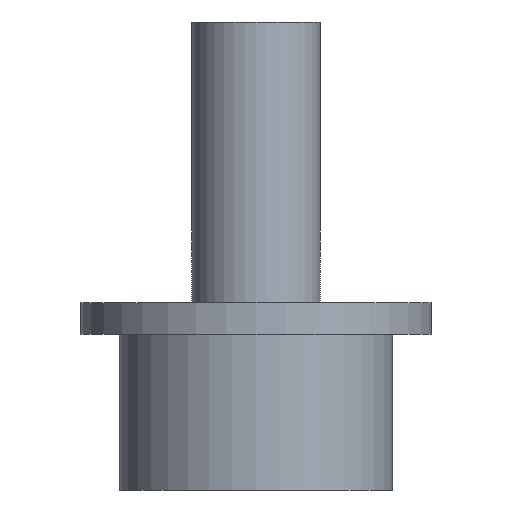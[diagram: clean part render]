
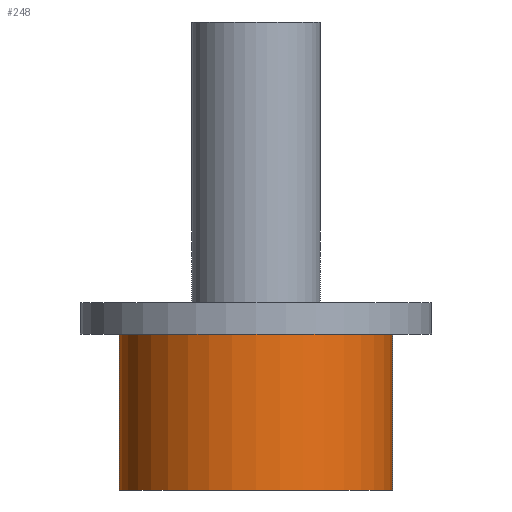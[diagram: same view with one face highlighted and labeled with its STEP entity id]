
A CAD part, left-side view. The second image highlights one B-rep face of the part: STEP entity #248.
In plain terms, the highlighted cylindrical face has radius 3.5 mm (diameter 7 mm), a full revolution.
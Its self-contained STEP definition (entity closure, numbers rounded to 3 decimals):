
#248 = ADVANCED_FACE('',(#249),#263,.T.);
#249 = FACE_BOUND('',#250,.F.);
#250 = EDGE_LOOP('',(#251,#281,#308,#309));
#251 = ORIENTED_EDGE('',*,*,#252,.T.);
#252 = EDGE_CURVE('',#253,#255,#257,.T.);
#253 = VERTEX_POINT('',#254);
#254 = CARTESIAN_POINT('',(-9.003,-70.906,190.2));
#255 = VERTEX_POINT('',#256);
#256 = CARTESIAN_POINT('',(-9.003,-70.906,194.2));
#257 = SEAM_CURVE('',#258,(#262,#274),.PCURVE_S1.);
#258 = LINE('',#259,#260);
#259 = CARTESIAN_POINT('',(-9.003,-70.906,190.2));
#260 = VECTOR('',#261,1.);
#261 = DIRECTION('',(0.,0.,1.));
#262 = PCURVE('',#263,#268);
#263 = CYLINDRICAL_SURFACE('',#264,3.5);
#264 = AXIS2_PLACEMENT_3D('',#265,#266,#267);
#265 = CARTESIAN_POINT('',(-12.503,-70.906,190.2));
#266 = DIRECTION('',(-0.,-0.,-1.));
#267 = DIRECTION('',(1.,0.,0.));
#268 = DEFINITIONAL_REPRESENTATION('',(#269),#273);
#269 = LINE('',#270,#271);
#270 = CARTESIAN_POINT('',(-0.,0.));
#271 = VECTOR('',#272,1.);
#272 = DIRECTION('',(-0.,-1.));
#273 = ( GEOMETRIC_REPRESENTATION_CONTEXT(2) 
PARAMETRIC_REPRESENTATION_CONTEXT() REPRESENTATION_CONTEXT('2D SPACE',''
  ) );
#274 = PCURVE('',#263,#275);
#275 = DEFINITIONAL_REPRESENTATION('',(#276),#280);
#276 = LINE('',#277,#278);
#277 = CARTESIAN_POINT('',(-6.283,0.));
#278 = VECTOR('',#279,1.);
#279 = DIRECTION('',(-0.,-1.));
#280 = ( GEOMETRIC_REPRESENTATION_CONTEXT(2) 
PARAMETRIC_REPRESENTATION_CONTEXT() REPRESENTATION_CONTEXT('2D SPACE',''
  ) );
#281 = ORIENTED_EDGE('',*,*,#282,.T.);
#282 = EDGE_CURVE('',#255,#255,#283,.T.);
#283 = SURFACE_CURVE('',#284,(#289,#296),.PCURVE_S1.);
#284 = CIRCLE('',#285,3.5);
#285 = AXIS2_PLACEMENT_3D('',#286,#287,#288);
#286 = CARTESIAN_POINT('',(-12.503,-70.906,194.2));
#287 = DIRECTION('',(0.,0.,1.));
#288 = DIRECTION('',(1.,0.,0.));
#289 = PCURVE('',#263,#290);
#290 = DEFINITIONAL_REPRESENTATION('',(#291),#295);
#291 = LINE('',#292,#293);
#292 = CARTESIAN_POINT('',(-0.,-4.));
#293 = VECTOR('',#294,1.);
#294 = DIRECTION('',(-1.,0.));
#295 = ( GEOMETRIC_REPRESENTATION_CONTEXT(2) 
PARAMETRIC_REPRESENTATION_CONTEXT() REPRESENTATION_CONTEXT('2D SPACE',''
  ) );
#296 = PCURVE('',#297,#302);
#297 = PLANE('',#298);
#298 = AXIS2_PLACEMENT_3D('',#299,#300,#301);
#299 = CARTESIAN_POINT('',(-12.503,-70.906,194.2));
#300 = DIRECTION('',(0.,0.,1.));
#301 = DIRECTION('',(1.,0.,-0.));
#302 = DEFINITIONAL_REPRESENTATION('',(#303),#307);
#303 = CIRCLE('',#304,3.5);
#304 = AXIS2_PLACEMENT_2D('',#305,#306);
#305 = CARTESIAN_POINT('',(0.,0.));
#306 = DIRECTION('',(1.,0.));
#307 = ( GEOMETRIC_REPRESENTATION_CONTEXT(2) 
PARAMETRIC_REPRESENTATION_CONTEXT() REPRESENTATION_CONTEXT('2D SPACE',''
  ) );
#308 = ORIENTED_EDGE('',*,*,#252,.F.);
#309 = ORIENTED_EDGE('',*,*,#310,.F.);
#310 = EDGE_CURVE('',#253,#253,#311,.T.);
#311 = SURFACE_CURVE('',#312,(#317,#324),.PCURVE_S1.);
#312 = CIRCLE('',#313,3.5);
#313 = AXIS2_PLACEMENT_3D('',#314,#315,#316);
#314 = CARTESIAN_POINT('',(-12.503,-70.906,190.2));
#315 = DIRECTION('',(0.,0.,1.));
#316 = DIRECTION('',(1.,0.,0.));
#317 = PCURVE('',#263,#318);
#318 = DEFINITIONAL_REPRESENTATION('',(#319),#323);
#319 = LINE('',#320,#321);
#320 = CARTESIAN_POINT('',(-0.,0.));
#321 = VECTOR('',#322,1.);
#322 = DIRECTION('',(-1.,0.));
#323 = ( GEOMETRIC_REPRESENTATION_CONTEXT(2) 
PARAMETRIC_REPRESENTATION_CONTEXT() REPRESENTATION_CONTEXT('2D SPACE',''
  ) );
#324 = PCURVE('',#325,#330);
#325 = PLANE('',#326);
#326 = AXIS2_PLACEMENT_3D('',#327,#328,#329);
#327 = CARTESIAN_POINT('',(-12.503,-70.906,190.2));
#328 = DIRECTION('',(0.,0.,1.));
#329 = DIRECTION('',(1.,0.,-0.));
#330 = DEFINITIONAL_REPRESENTATION('',(#331),#335);
#331 = CIRCLE('',#332,3.5);
#332 = AXIS2_PLACEMENT_2D('',#333,#334);
#333 = CARTESIAN_POINT('',(0.,0.));
#334 = DIRECTION('',(1.,0.));
#335 = ( GEOMETRIC_REPRESENTATION_CONTEXT(2) 
PARAMETRIC_REPRESENTATION_CONTEXT() REPRESENTATION_CONTEXT('2D SPACE',''
  ) );
